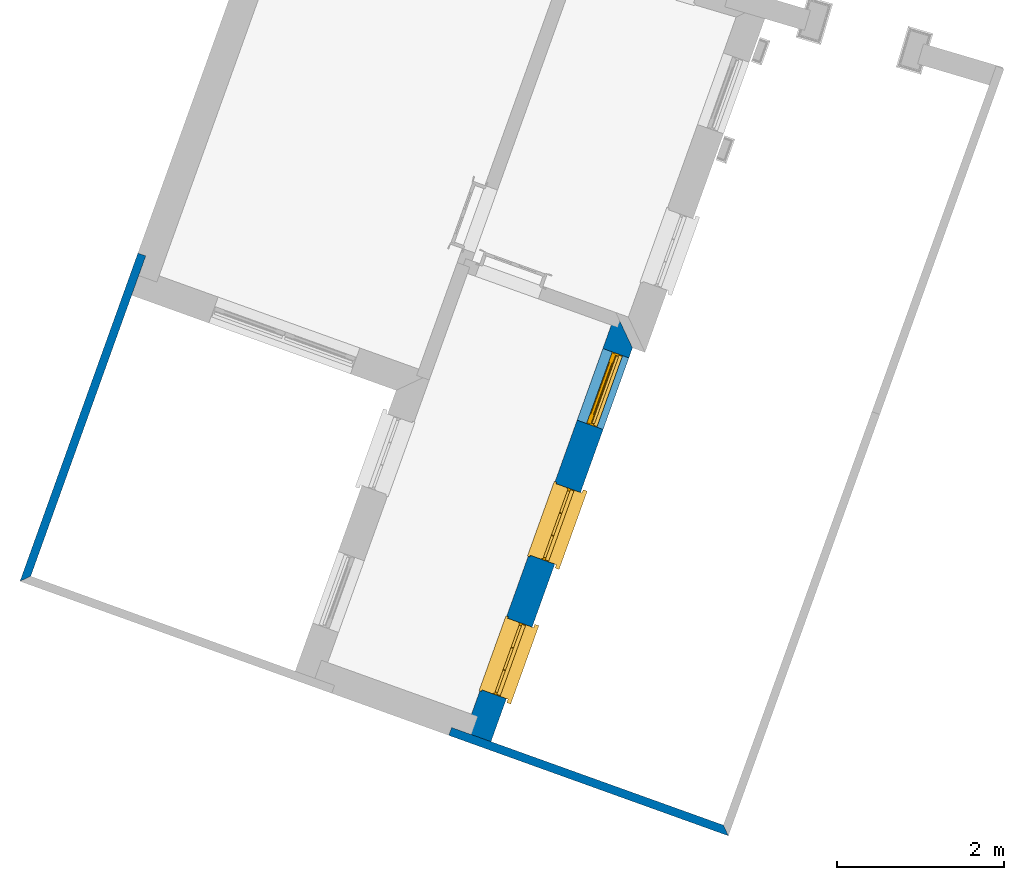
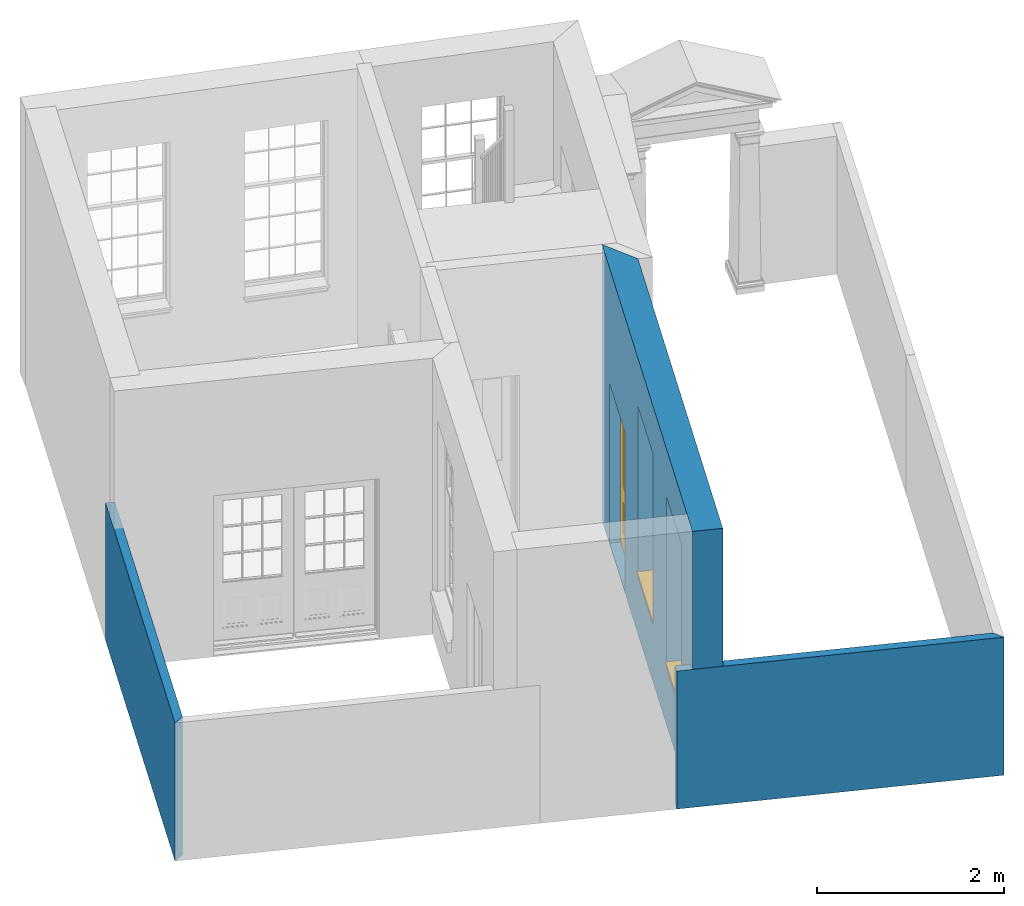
# One storey, part 2 of 7: 3 walls, 2 windows, 1 door, 3 openings.
"""IFC4 building model written with IfcOpenShell, lengths in metres."""

from ifc_helpers import new_model, si_unit, frame, origin, origin_with_axes, place, context, subcontext, project, spatial, polyline, outline, extrude, faceted_brep, source, transform, mapped, material, layer, layer_set, layer_usage, type_object, type_shapes, element, fill, save


model = new_model("IFC4")

# Units and contexts
model_context = context("Model", 3, world=origin_with_axes())
body_context = subcontext(model_context, "Body", "Model", "MODEL_VIEW")
ifc_project = project(units=[si_unit("PLANEANGLEUNIT", "RADIAN"), si_unit("MASSUNIT", "GRAM", prefix="KILO"), si_unit("FORCEUNIT", "NEWTON", prefix="KILO"), si_unit("LENGTHUNIT", "METRE"), si_unit("AREAUNIT", "SQUARE_METRE"), si_unit("VOLUMEUNIT", "CUBIC_METRE")], contexts=[model_context, model_context])

# Sites, building, storey
site_1_placement = place(None, origin_with_axes())
site_1 = spatial("IfcSite", under=ifc_project, at=site_1_placement, Name="Tamar")
site_2_placement = place(site_1_placement, origin_with_axes())
site_2 = spatial("IfcSite", under=site_1, at=site_2_placement, Name="Site plot-23", CompositionType="ELEMENT")
building_placement = place(None, origin_with_axes())
building = spatial("IfcBuilding", under=site_2, at=building_placement, Name="Building plot-23", CompositionType="ELEMENT")
storey_placement = place(None, frame((0.0, 0.0, 26.0), z_axis=(0.0, 0.0, 1.0), x_axis=(1.0, 0.0, 0.0)))
storey = spatial("IfcBuildingStorey", under=building, at=storey_placement, Name="plot-23 0", CompositionType="ELEMENT", Elevation=26.0)

# Wall, openings, windows, door
ifc_material_1 = material(Name="Masonry")
ifc_layer_1 = layer(ifc_material_1, 0.33, ventilated=False)
ifc_layer_set_1 = layer_set([ifc_layer_1], Name="exterior_0.08_0.25")
ifc_layer_usage_1 = layer_usage(ifc_layer_set_1, "AXIS2", "POSITIVE", -0.25)
wall_type_1 = type_object("IfcWallType", Name="exterior_0.08_0.25", PredefinedType="SOLIDWALL", material=ifc_layer_set_1)
wall_1_placement = place(storey_placement, frame((264.45194102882, 273.027462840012, 0.0), z_axis=(0.0, 0.0, 1.0), x_axis=(0.338164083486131, 0.941087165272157, 0.0)))
wall_1 = element("IfcWall", 1, at=wall_1_placement, inside=storey, type_object=wall_type_1, material=ifc_layer_usage_1, Name="exterior", context=body_context, shape_type="SweptSolid", body=[
    extrude(outline(polyline([(-0.250000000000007, 0.0799999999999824), (-0.250000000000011, -0.249999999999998), (4.85289233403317, -0.250000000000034), (5.182892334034, 0.0799999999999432), (-0.250000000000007, 0.0799999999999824)])), origin_with_axes(), (0.0, 0.0, 1.0), 3.6),
])
opening_1_placement = place(wall_1_placement, frame((0.395482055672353, 0.0, 0.75)))
opening_1 = element("IfcOpeningElement", 2, at=opening_1_placement, cuts=wall_1, Name="My Opening", ObjectType="Opening", context=body_context, shape_type="SweptSolid", body=[
    extrude(outline(polyline([(0.0, -0.270000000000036), (0.910000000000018, -0.270000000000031), (0.909999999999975, 1.09999999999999), (-4.29656310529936e-14, 1.09999999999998), (0.0, -0.270000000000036)])), origin_with_axes(), (0.0, 0.0, 1.0), 2.23),
])
opening_2_placement = place(wall_1_placement, frame((2.10548205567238, 0.0, 0.75)))
opening_2 = element("IfcOpeningElement", 3, at=opening_2_placement, cuts=wall_1, Name="My Opening", ObjectType="Opening", context=body_context, shape_type="SweptSolid", body=[
    extrude(outline(polyline([(0.0, -0.270000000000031), (0.909999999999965, -0.270000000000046), (0.909999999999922, 1.09999999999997), (-4.30766533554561e-14, 1.09999999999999), (0.0, -0.270000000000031)])), origin_with_axes(), (0.0, 0.0, 1.0), 2.23),
])
opening_3_placement = place(wall_1_placement, frame((3.81548205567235, 0.0, 0.0199999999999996)))
opening_3 = element("IfcOpeningElement", 4, at=opening_3_placement, cuts=wall_1, Name="My Opening", ObjectType="Opening", context=body_context, shape_type="SweptSolid", body=[
    extrude(outline(polyline([(0.0, -0.270000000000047), (0.909999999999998, -0.269999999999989), (0.909999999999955, 1.10000000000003), (-4.30766533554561e-14, 1.09999999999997), (0.0, -0.270000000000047)])), origin_with_axes(), (0.0, 0.0, 1.0), 2.08),
])
window_type = type_object("IfcWindowType", Name="sash_big_taller", PartitioningType="DOUBLE_PANEL_HORIZONTAL", PredefinedType="NOTDEFINED")
shared_shape_1 = source(origin(), body_context, "Body", "Brep", [
    faceted_brep([(0.033125, 0.145, 1.385209), (0.01, 0.145, 1.385209), (0.033125, 0.145, 1.786042), (0.876875, 0.145, 1.385209), (0.876875, 0.145, 1.786042), (0.9, 0.145, 1.385209), (0.876875, 0.145, 1.796042), (0.876875, 0.145, 2.196875), (0.9, 0.145, 2.22), (0.033125, 0.145, 2.196875), (0.033125, 0.145, 1.796042), (0.01, 0.145, 2.22), (0.876875, 0.115, 1.786042), (0.876875, 0.115, 1.385209), (0.9, 0.115, 1.347084), (0.033125, 0.115, 2.196875), (0.01, 0.115, 2.22), (0.033125, 0.115, 1.796042), (0.01, 0.115, 1.347084), (0.033125, 0.115, 1.385209), (0.033125, 0.115, 1.786042), (0.876875, 0.115, 2.196875), (0.876875, 0.115, 1.796042), (0.9, 0.115, 2.22), (0.033125, 0.145, 1.347084), (0.01, 0.145, 1.347084), (0.033125, 0.145, 0.94625), (0.876875, 0.145, 1.347084), (0.876875, 0.145, 0.94625), (0.9, 0.145, 1.347084), (0.876875, 0.145, 0.52625), (0.876875, 0.145, 0.125417), (0.9, 0.145, 0.077167), (0.033125, 0.145, 0.125417), (0.033125, 0.145, 0.52625), (0.01, 0.145, 0.077167), (-0.0425, 0.0, 0.01), (-0.0425, -0.05, 0.001667), (0.0, 0.0, 0.01), (0.9525, 0.0, 0.01), (0.91, 0.0, 0.01), (0.9525, -0.05, 0.001667), (-0.02, 0.33, 0.077167), (0.0, 0.33, 0.077167), (-0.02, 0.36, 0.077167), (0.0, 0.19, 0.077167), (0.01, 0.19, 0.077167), (0.91, 0.19, 0.077167), (0.91, 0.33, 0.077167), (0.9, 0.19, 0.077167), (0.93, 0.33, 0.077167), (0.93, 0.36, 0.077167), (0.01, 0.175, 1.385209), (0.9, 0.175, 1.385209), (0.876875, 0.175, 0.125417), (0.876875, 0.175, 0.52625), (0.9, 0.175, 0.077167), (0.876875, 0.175, 0.94625), (0.876875, 0.175, 1.347084), (0.033125, 0.175, 0.125417), (0.01, 0.175, 0.077167), (0.033125, 0.175, 0.52625), (0.033125, 0.175, 1.347084), (0.033125, 0.175, 0.94625), (-0.02, 0.33, 0.052167), (-0.02, 0.36, 0.052167), (0.93, 0.36, 0.052167), (0.93, 0.33, 0.052167), (0.91, 0.33, 0.052167), (0.0, 0.33, 0.052167), (0.91, 0.1, 0.026667), (0.0, 0.1, 0.026667), (-0.0425, -0.05, -0.123333), (0.9525, -0.05, -0.123333), (-0.0425, 0.0, -0.123333), (0.9525, 0.0, -0.123333), (0.01, 0.19, 2.22), (0.9, 0.19, 2.22), (0.0, 0.19, 2.23), (0.91, 0.19, 2.23), (0.01, 0.1, 0.077167), (0.9, 0.1, 0.077167), (0.592292, 0.145, 0.125417), (0.592292, 0.175, 0.125417), (0.317708, 0.175, 0.125417), (0.317708, 0.145, 0.125417), (0.592292, 0.145, 0.53625), (0.317708, 0.145, 0.53625), (0.317708, 0.145, 0.52625), (0.592292, 0.145, 0.52625), (0.592292, 0.175, 0.53625), (0.317708, 0.175, 0.53625), (0.592292, 0.115, 1.796042), (0.592292, 0.145, 1.796042), (0.317708, 0.145, 1.796042), (0.317708, 0.115, 1.796042), (0.317708, 0.115, 1.786042), (0.592292, 0.115, 1.786042), (0.317708, 0.145, 1.786042), (0.592292, 0.145, 1.786042), (0.602292, 0.115, 1.786042), (0.592292, 0.115, 1.385209), (0.602292, 0.115, 1.385209), (0.602292, 0.145, 1.385209), (0.592292, 0.145, 1.385209), (0.602292, 0.145, 1.786042), (0.876875, 0.145, 0.53625), (0.876875, 0.175, 0.53625), (0.602292, 0.175, 0.53625), (0.602292, 0.145, 0.53625), (0.317708, 0.175, 0.52625), (0.307708, 0.175, 0.125417), (0.307708, 0.175, 0.52625), (0.602292, 0.175, 0.52625), (0.602292, 0.175, 0.125417), (0.592292, 0.175, 0.52625), (0.307708, 0.175, 0.53625), (0.033125, 0.175, 0.53625), (0.317708, 0.175, 1.347084), (0.317708, 0.175, 0.94625), (0.307708, 0.175, 0.94625), (0.307708, 0.175, 1.347084), (0.602292, 0.175, 1.347084), (0.602292, 0.175, 0.94625), (0.592292, 0.175, 0.94625), (0.592292, 0.175, 1.347084), (0.307708, 0.145, 0.52625), (0.307708, 0.145, 0.125417), (0.307708, 0.145, 0.53625), (0.033125, 0.145, 0.53625), (0.307708, 0.145, 1.347084), (0.307708, 0.145, 0.94625), (0.592292, 0.145, 1.347084), (0.592292, 0.145, 0.94625), (0.317708, 0.145, 0.94625), (0.317708, 0.145, 1.347084), (0.602292, 0.145, 0.94625), (0.602292, 0.145, 1.347084), (0.602292, 0.145, 0.52625), (0.602292, 0.145, 0.125417), (0.307708, 0.115, 1.796042), (0.307708, 0.115, 1.786042), (0.307708, 0.115, 1.385209), (0.317708, 0.115, 1.385209), (0.317708, 0.115, 2.196875), (0.307708, 0.115, 2.196875), (0.602292, 0.115, 2.196875), (0.592292, 0.115, 2.196875), (0.602292, 0.115, 1.796042), (0.602292, 0.145, 1.796042), (0.307708, 0.145, 1.796042), (0.307708, 0.145, 2.196875), (0.317708, 0.145, 2.196875), (0.592292, 0.145, 2.196875), (0.602292, 0.145, 2.196875), (0.307708, 0.145, 1.786042), (0.317708, 0.145, 1.385209), (0.307708, 0.145, 1.385209), (0.876875, 0.175, 0.93625), (0.033125, 0.175, 0.93625), (0.033125, 0.145, 0.93625), (0.876875, 0.145, 0.93625), (0.91, 0.1, 2.23), (0.9, 0.1, 2.22), (0.01, 0.1, 2.22), (0.0, 0.1, 2.23), (0.91, 0.0, 0.0), (0.0, 0.0, 0.0), (0.91, 0.33, 0.0), (0.0, 0.33, 0.0), (0.317708, 0.145, 0.93625), (0.592292, 0.145, 0.93625), (0.317708, 0.175, 0.93625), (0.307708, 0.175, 0.93625), (0.602292, 0.175, 0.93625), (0.592292, 0.175, 0.93625), (0.307708, 0.145, 0.93625), (0.602292, 0.145, 0.93625)], [[[0, 1, 2]], [[3, 4, 5]], [[6, 7, 8]], [[9, 10, 11]], [[12, 13, 14]], [[15, 16, 17]], [[18, 19, 20]], [[21, 22, 23]], [[24, 25, 26]], [[27, 28, 29]], [[30, 31, 32]], [[33, 34, 35]], [[14, 27, 29]], [[25, 24, 18]], [[36, 37, 38]], [[39, 40, 41]], [[42, 43, 44]], [[45, 46, 43]], [[47, 48, 49]], [[50, 51, 48]], [[1, 0, 52]], [[5, 53, 3]], [[54, 55, 56]], [[57, 58, 53]], [[59, 60, 61]], [[62, 63, 52]], [[48, 43, 46, 49]], [[51, 44, 43, 48]], [[64, 42, 44, 65]], [[65, 44, 51, 66]], [[66, 51, 50, 67]], [[65, 66, 68, 69]], [[60, 56, 49, 46]], [[70, 71, 38, 40]], [[37, 41, 40, 38]], [[37, 72, 73, 41]], [[74, 75, 73, 72]], [[8, 11, 76, 77]], [[76, 78, 79, 77]], [[32, 35, 80, 81]], [[81, 80, 71, 70]], [[82, 83, 84, 85]], [[86, 87, 88, 89]], [[86, 90, 91, 87]], [[92, 93, 94, 95]], [[92, 95, 96, 97]], [[96, 98, 99, 97]], [[100, 97, 101, 102]], [[103, 104, 99, 105]], [[97, 99, 104, 101]], [[102, 103, 105, 100]], [[106, 107, 108, 109]], [[110, 84, 111, 112]], [[113, 114, 83, 115]], [[116, 112, 61, 117]], [[90, 115, 110, 91]], [[118, 119, 120, 121]], [[122, 123, 124, 125]], [[113, 108, 107, 55]], [[126, 112, 111, 127]], [[34, 61, 112, 126]], [[89, 115, 83, 82]], [[88, 110, 115, 89]], [[85, 84, 110, 88]], [[128, 116, 117, 129]], [[130, 121, 120, 131]], [[132, 125, 124, 133]], [[134, 119, 118, 135]], [[136, 123, 122, 137]], [[138, 113, 55, 30]], [[139, 114, 113, 138]], [[138, 30, 106, 109]], [[88, 126, 127, 85]], [[138, 89, 82, 139]], [[137, 132, 133, 136]], [[128, 129, 34, 126]], [[135, 130, 131, 134]], [[140, 17, 20, 141]], [[96, 141, 142, 143]], [[144, 145, 140, 95]], [[146, 147, 92, 148]], [[100, 12, 22, 148]], [[149, 6, 4, 105]], [[94, 150, 151, 152]], [[149, 93, 153, 154]], [[99, 98, 94, 93]], [[155, 2, 10, 150]], [[156, 157, 155, 98]], [[141, 155, 157, 142]], [[20, 2, 155, 141]], [[143, 156, 98, 96]], [[140, 150, 10, 17]], [[145, 151, 150, 140]], [[147, 153, 93, 92]], [[95, 94, 152, 144]], [[22, 6, 149, 148]], [[148, 149, 154, 146]], [[100, 105, 4, 12]], [[109, 86, 89, 138]], [[108, 113, 115, 90]], [[91, 110, 112, 116]], [[87, 128, 126, 88]], [[97, 100, 148, 92]], [[141, 96, 95, 140]], [[98, 155, 150, 94]], [[105, 99, 93, 149]], [[143, 101, 104, 156]], [[135, 118, 125, 132]], [[144, 152, 153, 147]], [[127, 111, 59, 33]], [[15, 9, 151, 145]], [[146, 154, 7, 21]], [[31, 54, 114, 139]], [[36, 74, 72, 37]], [[39, 41, 73, 75]], [[18, 14, 101, 143]], [[23, 16, 144, 147]], [[83, 56, 60, 84]], [[52, 53, 125, 118]], [[53, 52, 156, 104]], [[11, 8, 153, 152]], [[14, 18, 135, 132]], [[2, 1, 11, 10]], [[8, 5, 4, 6]], [[57, 53, 56, 158]], [[60, 52, 63, 159]], [[26, 25, 35, 160]], [[32, 29, 28, 161]], [[14, 23, 22, 12]], [[18, 20, 17, 16]], [[19, 0, 2, 20]], [[17, 10, 9, 15]], [[12, 4, 3, 13]], [[21, 7, 6, 22]], [[27, 58, 57, 28]], [[30, 55, 54, 31]], [[33, 59, 61, 34]], [[26, 63, 62, 24]], [[5, 8, 77, 53]], [[76, 11, 1, 52]], [[46, 45, 78, 76]], [[49, 77, 79, 47]], [[70, 162, 163, 81]], [[71, 80, 164, 165]], [[19, 142, 157, 0]], [[102, 13, 3, 103]], [[121, 130, 24, 62]], [[29, 32, 81, 14]], [[80, 35, 25, 18]], [[60, 46, 76, 52]], [[77, 49, 56, 53]], [[23, 14, 81, 163]], [[16, 164, 80, 18]], [[35, 85, 127]], [[127, 33, 35]], [[139, 82, 32]], [[32, 31, 139]], [[32, 82, 85, 35]], [[102, 101, 14]], [[14, 13, 102]], [[18, 143, 142]], [[142, 19, 18]], [[146, 21, 23]], [[23, 147, 146]], [[16, 15, 145]], [[145, 144, 16]], [[11, 152, 151]], [[151, 9, 11]], [[154, 153, 8]], [[8, 7, 154]], [[23, 163, 164, 16]], [[162, 165, 164, 163]], [[52, 118, 121]], [[121, 62, 52]], [[125, 53, 122]], [[58, 122, 53]], [[27, 137, 122, 58]], [[56, 83, 114]], [[114, 54, 56]], [[111, 84, 60]], [[60, 59, 111]], [[137, 27, 14]], [[14, 132, 137]], [[130, 135, 18]], [[18, 24, 130]], [[157, 156, 52]], [[52, 0, 157]], [[103, 3, 53]], [[53, 104, 103]], [[79, 78, 165, 162]], [[78, 45, 71, 165]], [[162, 70, 47, 79]], [[166, 75, 74, 167]], [[68, 66, 67]], [[48, 68, 67, 50]], [[69, 64, 65]], [[42, 64, 69, 43]], [[69, 68, 168, 169]], [[70, 68, 48, 47]], [[166, 168, 68, 70]], [[43, 69, 71, 45]], [[69, 169, 167, 71]], [[168, 166, 167, 169]], [[38, 167, 74, 36]], [[71, 167, 38]], [[39, 75, 166, 40]], [[40, 166, 70]], [[133, 134, 170, 171]], [[133, 124, 119, 134]], [[28, 57, 123, 136]], [[172, 91, 116, 173]], [[174, 108, 90, 175]], [[120, 173, 159, 63]], [[124, 175, 172, 119]], [[174, 123, 57, 158]], [[176, 173, 116, 128]], [[160, 159, 173, 176]], [[171, 175, 90, 86]], [[170, 172, 175, 171]], [[87, 91, 172, 170]], [[131, 120, 63, 26]], [[177, 174, 158, 161]], [[109, 108, 174, 177]], [[177, 161, 28, 136]], [[170, 176, 128, 87]], [[177, 171, 86, 109]], [[131, 26, 160, 176]], [[136, 133, 171, 177]], [[123, 174, 175, 124]], [[119, 172, 173, 120]], [[134, 131, 176, 170]], [[129, 117, 159, 160]], [[161, 158, 107, 106]], [[35, 34, 129]], [[35, 129, 160]], [[32, 106, 30]], [[32, 161, 106]], [[56, 55, 107]], [[56, 107, 158]], [[60, 117, 61]], [[60, 159, 117]]]),
])
type_shapes(window_type, [shared_shape_1])
window_1_placement = place(storey_placement, frame((264.839772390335, 273.308341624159, 0.75), z_axis=(0.0, 0.0, 1.0), x_axis=(0.307729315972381, 0.856389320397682, 0.0)))
window_1 = element("IfcWindow", 5, at=window_1_placement, inside=storey, type_object=window_type, Name="bedroom outside window", OverallHeight=2.23, OverallWidth=0.91, context=body_context, shape_type="MappedRepresentation", body=[
    mapped(shared_shape_1, transform((0.0, 0.0, 0.0), scale=1.0)),
])
fill(opening_1, window_1)
window_2_placement = place(storey_placement, frame((265.418032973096, 274.917600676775, 0.75), z_axis=(0.0, 0.0, 1.0), x_axis=(0.307729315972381, 0.856389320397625, 0.0)))
window_2 = element("IfcWindow", 6, at=window_2_placement, inside=storey, type_object=window_type, Name="bedroom outside window", OverallHeight=2.23, OverallWidth=0.91, context=body_context, shape_type="MappedRepresentation", body=[
    mapped(shared_shape_1, transform((0.0, 0.0, 0.0), scale=1.0)),
])
fill(opening_2, window_2)
door_type = type_object("IfcDoorType", Name="door_panelled", OperationType="SINGLE_SWING_LEFT", PredefinedType="NOTDEFINED")
shared_shape_2 = source(origin(), body_context, "Body", "Brep", [
    faceted_brep([(0.545, 0.195, 0.265), (0.745, 0.195, 0.265), (0.745, 0.2, 0.265), (0.545, 0.2, 0.265), (0.745, 0.2, 0.58), (0.545, 0.2, 0.58), (0.545, 0.195, 0.58), (0.515, 0.19, 0.235), (0.775, 0.19, 0.235), (0.745, 0.195, 0.58), (0.515, 0.19, 0.61), (0.515, 0.185, 0.235), (0.775, 0.185, 0.235), (0.775, 0.19, 0.61), (0.515, 0.185, 0.61), (0.785, 0.185, 0.225), (0.505, 0.185, 0.225), (0.775, 0.185, 0.61), (0.505, 0.185, 0.62), (0.785, 0.185, 0.62), (0.505, 0.18, 0.225), (0.785, 0.18, 0.225), (0.505, 0.18, 0.62), (0.785, 0.18, 0.62), (0.883, 0.18, 0.075), (0.898, 0.18, 0.075), (0.405, 0.18, 0.62), (0.405, 0.18, 0.225), (0.027, 0.18, 0.075), (0.785, 0.18, 0.82), (0.125, 0.18, 0.82), (0.405, 0.185, 0.62), (0.405, 0.185, 0.225), (0.898, 0.18, 2.068), (0.027, 0.17, 0.075), (0.883, 0.17, 0.075), (0.125, 0.18, 0.225), (0.012, 0.18, 0.075), (0.785, 0.19, 0.82), (0.125, 0.19, 0.82), (0.125, 0.18, 0.62), (0.125, 0.185, 0.62), (0.395, 0.185, 0.61), (0.395, 0.185, 0.235), (0.125, 0.185, 0.225), (0.785, 0.18, 1.895), (0.027, 0.14, 0.045), (0.883, 0.14, 0.045), (0.558333, 0.19, 0.83), (0.351667, 0.19, 0.83), (0.125, 0.18, 1.895), (0.125, 0.19, 1.895), (0.785, 0.19, 1.895), (0.012, 0.18, 2.068), (0.135, 0.185, 0.61), (0.395, 0.19, 0.61), (0.395, 0.19, 0.235), (0.135, 0.185, 0.235), (0.027, 0.14, 0.027), (0.883, 0.14, 0.027), (0.568333, 0.19, 0.83), (0.558333, 0.22, 0.83), (0.351667, 0.22, 0.83), (0.341667, 0.19, 0.83), (0.135, 0.19, 1.185), (0.135, 0.19, 1.53), (0.775, 0.19, 1.53), (0.775, 0.19, 1.185), (0.135, 0.19, 0.61), (0.365, 0.195, 0.58), (0.365, 0.195, 0.265), (0.135, 0.19, 0.235), (0.568333, 0.19, 1.175), (0.558333, 0.19, 1.175), (0.775, 0.19, 0.83), (0.558333, 0.22, 1.175), (0.785, 0.22, 0.82), (0.125, 0.22, 0.82), (0.351667, 0.22, 1.175), (0.351667, 0.19, 1.175), (0.341667, 0.19, 1.175), (0.135, 0.19, 0.83), (0.135, 0.19, 1.175), (0.135, 0.22, 1.185), (0.135, 0.22, 1.53), (0.135, 0.19, 1.54), (0.351667, 0.19, 1.885), (0.558333, 0.19, 1.885), (0.775, 0.22, 1.53), (0.775, 0.22, 1.185), (0.775, 0.19, 1.175), (0.775, 0.19, 1.54), (0.165, 0.195, 0.58), (0.365, 0.2, 0.58), (0.365, 0.2, 0.265), (0.165, 0.195, 0.265), (0.568333, 0.22, 0.83), (0.568333, 0.22, 1.175), (0.568333, 0.19, 1.185), (0.558333, 0.19, 1.185), (0.775, 0.22, 0.83), (0.785, 0.23, 0.82), (0.125, 0.23, 0.82), (0.341667, 0.22, 0.83), (0.341667, 0.22, 1.175), (0.351667, 0.19, 1.185), (0.341667, 0.19, 1.185), (0.135, 0.22, 0.83), (0.341667, 0.22, 1.185), (0.125, 0.22, 1.895), (0.341667, 0.22, 1.53), (0.341667, 0.19, 1.53), (0.135, 0.19, 1.885), (0.341667, 0.19, 1.54), (0.341667, 0.19, 1.885), (0.558333, 0.22, 1.885), (0.351667, 0.22, 1.885), (0.568333, 0.19, 1.885), (0.785, 0.22, 1.895), (0.568333, 0.22, 1.185), (0.568333, 0.19, 1.53), (0.568333, 0.22, 1.53), (0.568333, 0.19, 1.54), (0.775, 0.19, 1.885), (0.165, 0.2, 0.58), (0.165, 0.2, 0.265), (0.775, 0.22, 1.175), (0.558333, 0.19, 1.53), (0.351667, 0.22, 1.185), (0.558333, 0.22, 1.185), (0.505, 0.23, 0.62), (0.405, 0.23, 0.62), (0.125, 0.23, 1.895), (0.785, 0.23, 1.895), (0.351667, 0.19, 1.53), (0.135, 0.22, 1.175), (0.135, 0.22, 1.54), (0.341667, 0.22, 1.54), (0.135, 0.22, 1.885), (0.351667, 0.19, 1.54), (0.558333, 0.22, 1.54), (0.558333, 0.19, 1.54), (0.351667, 0.22, 1.54), (0.775, 0.22, 1.54), (0.568333, 0.22, 1.54), (0.775, 0.22, 1.885), (0.558333, 0.22, 1.53), (0.405, 0.23, 0.225), (0.505, 0.23, 0.225), (0.125, 0.23, 0.62), (0.785, 0.23, 0.62), (0.012, 0.23, 2.068), (0.898, 0.23, 2.068), (0.351667, 0.22, 1.53), (0.341667, 0.22, 1.885), (0.568333, 0.22, 1.885), (0.405, 0.225, 0.225), (0.405, 0.225, 0.62), (0.505, 0.225, 0.62), (0.505, 0.225, 0.225), (0.898, 0.23, 0.027), (0.012, 0.23, 0.027), (0.125, 0.225, 0.62), (0.785, 0.225, 0.62), (0.395, 0.225, 0.235), (0.395, 0.225, 0.61), (0.125, 0.23, 0.225), (0.125, 0.225, 0.225), (0.515, 0.225, 0.61), (0.515, 0.225, 0.235), (0.785, 0.23, 0.225), (0.785, 0.225, 0.225), (0.135, 0.225, 0.61), (0.775, 0.225, 0.61), (0.135, 0.225, 0.235), (0.395, 0.22, 0.235), (0.395, 0.22, 0.61), (0.515, 0.22, 0.61), (0.515, 0.22, 0.235), (0.775, 0.225, 0.235), (0.135, 0.22, 0.61), (0.775, 0.22, 0.61), (0.135, 0.22, 0.235), (0.365, 0.215, 0.265), (0.365, 0.215, 0.58), (0.545, 0.215, 0.58), (0.545, 0.215, 0.265), (0.775, 0.22, 0.235), (0.165, 0.215, 0.58), (0.745, 0.215, 0.58), (0.165, 0.215, 0.265), (0.365, 0.21, 0.58), (0.365, 0.21, 0.265), (0.545, 0.21, 0.58), (0.545, 0.21, 0.265), (0.745, 0.215, 0.265), (0.165, 0.21, 0.58), (0.745, 0.21, 0.58), (0.165, 0.21, 0.265), (0.745, 0.21, 0.265), (0.885, 0.178, 0.025), (0.025, 0.178, 0.025), (0.025, 0.15, 0.025), (0.885, 0.15, 0.025), (0.9, 0.23, 0.025), (0.01, 0.23, 0.025), (0.9, 0.178, 0.025), (0.91, 0.23, 0.0), (0.0, 0.23, 0.0), (0.01, 0.178, 0.025), (0.9, 0.178, 2.07), (0.9, 0.23, 2.07), (0.885, 0.178, 2.055), (0.91, 0.23, 2.08), (0.01, 0.23, 2.07), (0.0, 0.23, 2.08), (0.01, 0.178, 2.07), (0.025, 0.178, 2.055), (0.0, 0.1, 2.08), (0.91, 0.1, 2.08), (0.01, 0.1, 2.07), (0.9, 0.1, 2.07), (0.01, 0.15, 2.07), (0.9, 0.15, 2.07), (0.0, 0.1, 0.0), (0.91, 0.1, 0.0), (0.01, 0.1, 0.025), (0.9, 0.1, 0.025), (0.01, 0.15, 0.025), (0.025, 0.15, 2.055), (0.9, 0.15, 0.025), (0.885, 0.15, 2.055), (0.898, 0.18, 0.027), (0.012, 0.18, 0.027), (0.883, 0.18, 0.027), (0.027, 0.18, 0.027)], [[[0, 1, 2, 3]], [[2, 4, 5, 3]], [[0, 3, 5, 6]], [[1, 0, 7, 8]], [[9, 4, 2, 1]], [[9, 6, 5, 4]], [[0, 6, 10, 7]], [[8, 7, 11, 12]], [[8, 13, 9, 1]], [[13, 10, 6, 9]], [[7, 10, 14, 11]], [[15, 12, 11, 16]], [[12, 17, 13, 8]], [[17, 14, 10, 13]], [[18, 16, 11, 14]], [[15, 19, 17, 12]], [[15, 16, 20, 21]], [[14, 17, 19, 18]], [[16, 18, 22, 20]], [[21, 23, 19, 15]], [[24, 25, 21, 20]], [[23, 22, 18, 19]], [[20, 22, 26, 27]], [[23, 21, 25]], [[28, 24, 20, 27]], [[22, 23, 29]], [[29, 30, 26, 22]], [[27, 26, 31, 32]], [[23, 25, 33, 29]], [[34, 35, 24, 28]], [[28, 27, 36, 37]], [[38, 39, 30, 29]], [[26, 30, 40]], [[26, 40, 41, 31]], [[42, 43, 32, 31]], [[32, 44, 36, 27]], [[33, 45, 29]], [[46, 47, 35, 34]], [[36, 40, 37]], [[39, 38, 48, 49]], [[50, 30, 39, 51]], [[29, 45, 52, 38]], [[53, 37, 40, 30]], [[44, 41, 40, 36]], [[31, 41, 54, 42]], [[43, 42, 55, 56]], [[57, 44, 32, 43]], [[50, 45, 33, 53]], [[47, 46, 58, 59]], [[60, 48, 38]], [[49, 48, 61, 62]], [[49, 63, 39]], [[50, 53, 30]], [[51, 39, 64, 65]], [[45, 50, 51, 52]], [[66, 67, 38, 52]], [[57, 54, 41, 44]], [[42, 54, 68, 55]], [[56, 55, 69, 70]], [[56, 71, 57, 43]], [[60, 72, 73, 48]], [[60, 38, 74]], [[48, 73, 75, 61]], [[76, 77, 62, 61]], [[62, 78, 79, 49]], [[49, 79, 80, 63]], [[63, 81, 39]], [[82, 64, 39]], [[65, 64, 83, 84]], [[85, 51, 65]], [[52, 51, 86, 87]], [[88, 89, 67, 66]], [[90, 38, 67]], [[91, 66, 52]], [[71, 68, 54, 57]], [[55, 68, 92, 69]], [[69, 93, 94, 70]], [[70, 95, 71, 56]], [[96, 97, 72, 60]], [[73, 72, 98, 99]], [[74, 38, 90]], [[100, 96, 60, 74]], [[75, 73, 79, 78]], [[61, 75, 97, 96]], [[101, 102, 77, 76]], [[77, 103, 62]], [[96, 76, 61]], [[103, 104, 78, 62]], [[80, 79, 105, 106]], [[63, 80, 104, 103]], [[81, 63, 103, 107]], [[81, 82, 39]], [[106, 64, 82, 80]], [[106, 108, 83, 64]], [[84, 83, 77, 109]], [[110, 111, 65, 84]], [[112, 51, 85]], [[113, 85, 65, 111]], [[114, 86, 51]], [[115, 87, 86, 116]], [[117, 52, 87]], [[118, 76, 89, 88]], [[119, 98, 67, 89]], [[120, 121, 88, 66]], [[67, 98, 72, 90]], [[91, 122, 120, 66]], [[91, 52, 123]], [[95, 92, 68, 71]], [[69, 92, 124, 93]], [[94, 93, 124, 125]], [[94, 125, 95, 70]], [[72, 97, 126, 90]], [[127, 99, 98, 120]], [[99, 105, 79, 73]], [[74, 90, 126, 100]], [[96, 100, 76]], [[128, 129, 75, 78]], [[97, 75, 129, 119]], [[130, 131, 102, 101]], [[109, 77, 102, 132]], [[133, 101, 76, 118]], [[77, 107, 103]], [[78, 104, 108, 128]], [[111, 106, 105, 134]], [[104, 80, 82, 135]], [[107, 135, 82, 81]], [[110, 108, 106, 111]], [[104, 135, 83, 108]], [[83, 135, 77]], [[136, 84, 109]], [[110, 84, 136, 137]], [[114, 51, 112]], [[85, 136, 138, 112]], [[113, 137, 136, 85]], [[111, 134, 139, 113]], [[86, 114, 113, 139]], [[140, 141, 87, 115]], [[139, 142, 116, 86]], [[109, 118, 115, 116]], [[117, 123, 52]], [[117, 87, 141, 122]], [[126, 89, 76]], [[143, 118, 88]], [[120, 98, 119, 121]], [[119, 89, 126, 97]], [[144, 143, 88, 121]], [[144, 122, 91, 143]], [[127, 120, 122, 141]], [[143, 91, 123, 145]], [[124, 92, 95, 125]], [[146, 129, 99, 127]], [[99, 129, 128, 105]], [[100, 126, 76]], [[121, 119, 129, 146]], [[147, 131, 130, 148]], [[131, 149, 102]], [[130, 101, 150]], [[102, 151, 132]], [[118, 109, 132, 133]], [[101, 133, 152]], [[107, 77, 135]], [[153, 128, 108, 110]], [[134, 105, 128, 153]], [[109, 138, 136]], [[153, 110, 137, 142]], [[154, 114, 112, 138]], [[137, 113, 114, 154]], [[141, 139, 134, 127]], [[141, 140, 142, 139]], [[144, 140, 115, 155]], [[142, 137, 154, 116]], [[155, 115, 118]], [[116, 154, 109]], [[117, 155, 145, 123]], [[122, 144, 155, 117]], [[143, 145, 118]], [[121, 146, 140, 144]], [[146, 127, 134, 153]], [[156, 157, 131, 147]], [[148, 130, 158, 159]], [[148, 160, 161, 147]], [[157, 162, 149, 131]], [[161, 151, 102, 149]], [[101, 152, 160, 150]], [[163, 158, 130, 150]], [[151, 152, 133, 132]], [[154, 138, 109]], [[142, 140, 146, 153]], [[145, 155, 118]], [[157, 156, 164, 165]], [[147, 166, 167, 156]], [[168, 169, 159, 158]], [[170, 148, 159, 171]], [[148, 170, 160]], [[166, 147, 161]], [[172, 162, 157, 165]], [[166, 149, 162, 167]], [[166, 161, 149]], [[150, 160, 170]], [[163, 173, 168, 158]], [[171, 163, 150, 170]], [[174, 164, 156, 167]], [[175, 176, 165, 164]], [[169, 168, 177, 178]], [[171, 159, 169, 179]], [[167, 162, 172, 174]], [[176, 180, 172, 165]], [[179, 173, 163, 171]], [[181, 177, 168, 173]], [[164, 174, 182, 175]], [[183, 184, 176, 175]], [[178, 177, 185, 186]], [[179, 169, 178, 187]], [[174, 172, 180, 182]], [[184, 188, 180, 176]], [[187, 181, 173, 179]], [[189, 185, 177, 181]], [[175, 182, 190, 183]], [[191, 184, 183, 192]], [[185, 193, 194, 186]], [[187, 178, 186, 195]], [[182, 180, 188, 190]], [[191, 196, 188, 184]], [[195, 189, 181, 187]], [[197, 193, 185, 189]], [[183, 190, 198, 192]], [[198, 196, 191, 192]], [[194, 193, 197, 199]], [[195, 186, 194, 199]], [[188, 196, 198, 190]], [[197, 189, 195, 199]], [[200, 201, 202, 203]], [[201, 200, 204, 205]], [[206, 204, 200]], [[204, 207, 208, 205]], [[209, 201, 205]], [[210, 211, 204, 206]], [[206, 200, 212, 210]], [[211, 213, 207, 204]], [[214, 205, 208, 215]], [[216, 217, 201, 209]], [[205, 214, 216, 209]], [[216, 214, 211, 210]], [[210, 212, 217, 216]], [[214, 215, 213, 211]], [[218, 219, 213, 215]], [[219, 218, 220, 221]], [[221, 220, 222, 223]], [[215, 208, 224, 218]], [[225, 224, 208, 207]], [[224, 226, 220, 218]], [[224, 225, 227, 226]], [[219, 225, 207, 213]], [[228, 222, 220, 226]], [[219, 221, 227, 225]], [[226, 227, 203, 202]], [[202, 229, 222, 228]], [[228, 226, 202]], [[227, 221, 223, 230]], [[230, 203, 227]], [[217, 229, 202, 201]], [[231, 223, 222, 229]], [[230, 223, 231, 203]], [[231, 229, 217, 212]], [[212, 200, 203, 231]], [[33, 152, 151, 53]], [[25, 160, 152, 33]], [[161, 37, 53, 151]], [[232, 160, 25]], [[161, 233, 37]], [[160, 232, 234]], [[24, 234, 232, 25]], [[233, 161, 235]], [[37, 233, 235, 28]], [[161, 160, 234, 235]], [[35, 47, 234, 24]], [[28, 235, 46, 34]], [[58, 235, 234, 59]], [[59, 234, 47]], [[58, 46, 235]]]),
])
type_shapes(door_type, [shared_shape_2])
door_placement = place(storey_placement, frame((265.996293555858, 276.52685972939, 0.0199999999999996), z_axis=(0.0, 0.0, 1.0), x_axis=(0.307729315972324, 0.856389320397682, 0.0)))
door = element("IfcDoor", 7, at=door_placement, inside=storey, type_object=door_type, Name="bedroom outside door", OverallHeight=2.08, OverallWidth=0.91, context=body_context, shape_type="MappedRepresentation", body=[
    mapped(shared_shape_2, transform((0.0, 0.0, 0.0), scale=1.0)),
])
fill(opening_3, door)

# Walls
ifc_material_2 = material(Name="Masonry")
ifc_layer_2 = layer(ifc_material_2, 0.1, ventilated=False)
ifc_layer_set_2 = layer_set([ifc_layer_2], Name="fence_-0.15_0.25")
ifc_layer_usage_2 = layer_usage(ifc_layer_set_2, "AXIS2", "POSITIVE", -0.25)
wall_type_2 = type_object("IfcWallType", Name="fence_-0.15_0.25", PredefinedType="SOLIDWALL", material=ifc_layer_set_2)
wall_2_placement = place(storey_placement, frame((260.566366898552, 278.32282302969, 0.0), z_axis=(0.0, 0.0, 1.0), x_axis=(-0.338164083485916, -0.941087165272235, 0.0)))
element("IfcWall", 8, at=wall_2_placement, inside=storey, type_object=wall_type_2, material=ifc_layer_usage_2, Name="fence", context=body_context, shape_type="SweptSolid", body=[
    extrude(outline(polyline([(-0.250000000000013, -0.149999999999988), (-0.249999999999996, -0.249999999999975), (3.91943389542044, -0.249999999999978), (3.81943389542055, -0.149999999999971), (-0.250000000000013, -0.149999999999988)])), origin_with_axes(), (0.0, 0.0, 1.0), 1.8),
])
wall_3_placement = place(storey_placement, frame((264.45194102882, 273.027462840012, 0.0), z_axis=(0.0, 0.0, 1.0), x_axis=(0.94108716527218, -0.338164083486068, 0.0)))
element("IfcWall", 9, at=wall_3_placement, inside=storey, type_object=wall_type_2, material=ifc_layer_usage_2, Name="fence", context=body_context, shape_type="SweptSolid", body=[
    extrude(outline(polyline([(-0.250000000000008, -0.149999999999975), (-0.250000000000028, -0.249999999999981), (3.30263543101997, -0.249999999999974), (3.20263543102, -0.150000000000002), (-0.250000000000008, -0.149999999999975)])), origin_with_axes(), (0.0, 0.0, 1.0), 1.8),
])

save(model, "model.ifc")
